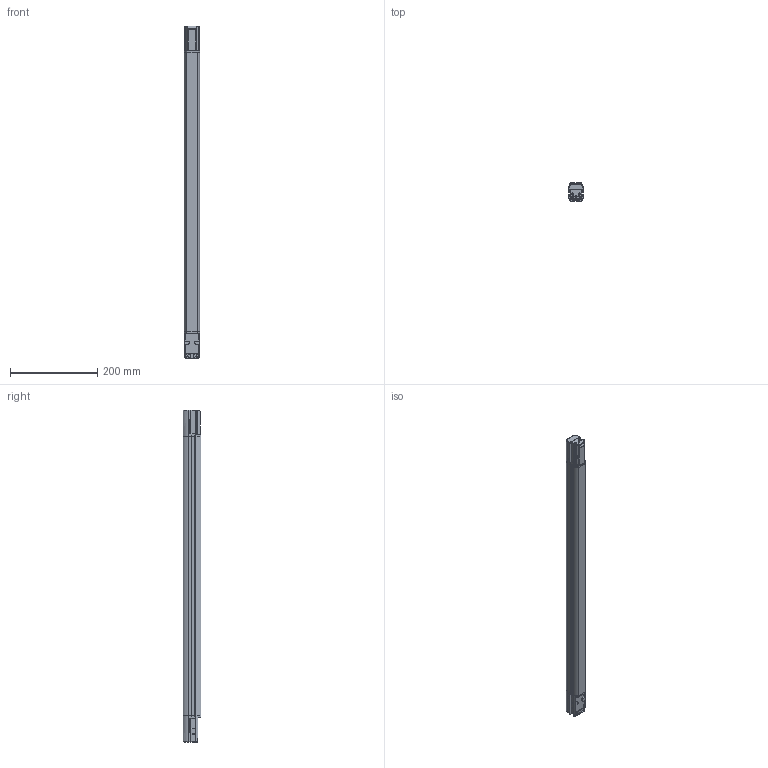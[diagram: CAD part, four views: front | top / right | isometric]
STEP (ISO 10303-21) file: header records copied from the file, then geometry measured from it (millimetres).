
FILE_DESCRIPTION(/* description */ (''),/* implementation_level */ '2;1');
FILE_NAME(/* name */ 'SH4 - 0750 mm DSD Barriera senza Smart Plug.stp',/* time_stamp */ '2022-12-02T18:27:12+01:00',/* author */ (''),/* organization */ (''),/* preprocessor_version */ 'ST-DEVELOPER v16.701',/* originating_system */ 'SIEMENS PLM Software NX 1946',/* authorisation */ '');
FILE_SCHEMA (('AP203_CONFIGURATION_CONTROLLED_3D_DESIGN_OF_MECHANICAL_PARTS_AND_ASSEMBLIES_MIM_LF { 1 0 10303 403 2 1 2}'));
Length unit declared in the file: millimetre
Products named in the file (1): MRos63D4F2E59wwz
Bounding box: 35.08 x 40 x 759 mm (x, y, z)
Volume: 876340.2 mm3; surface area: 185153.6 mm2
Topology: 6 solids, 11 shells, 891 faces, 2428 edges, 1549 vertices
Faces by surface type: plane 363, cylinder 315, bspline 92, cone 55, extrusion 24, sphere 22, torus 20
Full cylindrical faces by diameter (mm): 2.013 x4, 2.2 x4, 3 x4, 4.37 x4, 5 x8
Entity records: 34734 total; most frequent: CARTESIAN_POINT 13104, ORIENTED_EDGE 4576, DIRECTION 3865, EDGE_CURVE 2288, VERTEX_POINT 1515, AXIS2_PLACEMENT_3D 1345, VECTOR 1175, LINE 1151
